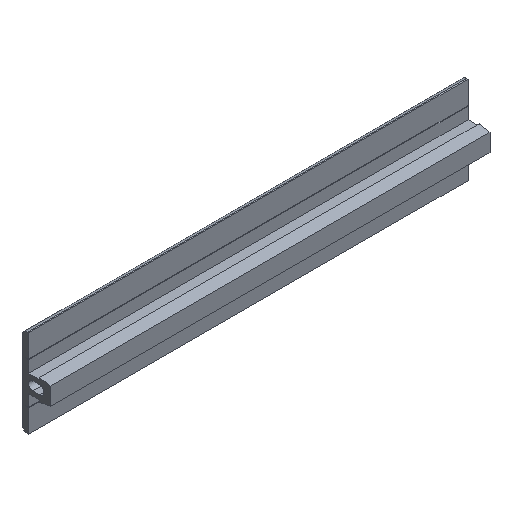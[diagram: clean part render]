
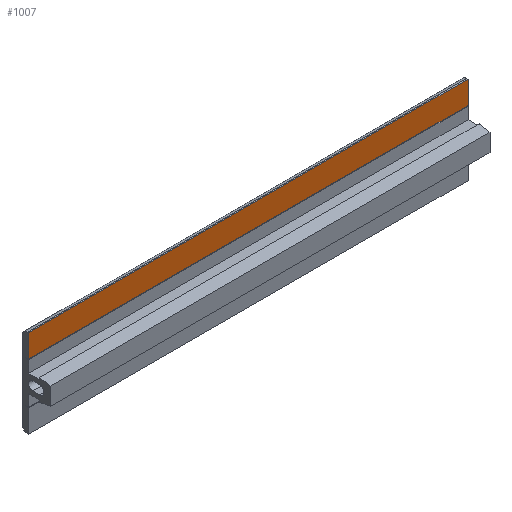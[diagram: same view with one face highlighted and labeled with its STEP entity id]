
A CAD part, isometric view. The second image highlights one B-rep face of the part: STEP entity #1007.
In plain terms, the highlighted planar face has unit normal (0, -1, 0).
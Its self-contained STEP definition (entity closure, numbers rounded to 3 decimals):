
#7 = LINE ( 'NONE', #410, #593 ) ;
#34 = DIRECTION ( 'NONE',  ( 0., 0., -1. ) ) ;
#47 = DIRECTION ( 'NONE',  ( -1., 0., 0. ) ) ;
#116 = VERTEX_POINT ( 'NONE', #558 ) ;
#181 = ORIENTED_EDGE ( 'NONE', *, *, #1139, .F. ) ;
#236 = EDGE_CURVE ( 'NONE', #668, #1108, #320, .T. ) ;
#271 = VECTOR ( 'NONE', #34, 1000. ) ;
#320 = LINE ( 'NONE', #482, #271 ) ;
#349 = CARTESIAN_POINT ( 'NONE',  ( 200., 3.434, 9.631 ) ) ;
#393 = DIRECTION ( 'NONE',  ( 0., 0., -1. ) ) ;
#410 = CARTESIAN_POINT ( 'NONE',  ( 200., 3.434, 20. ) ) ;
#426 = CARTESIAN_POINT ( 'NONE',  ( 200., 3.434, 20. ) ) ;
#433 = FACE_OUTER_BOUND ( 'NONE', #1149, .T. ) ;
#435 = VERTEX_POINT ( 'NONE', #1058 ) ;
#482 = CARTESIAN_POINT ( 'NONE',  ( 0., 3.434, 20. ) ) ;
#506 = CARTESIAN_POINT ( 'NONE',  ( 0., 3.434, 20. ) ) ;
#546 = CARTESIAN_POINT ( 'NONE',  ( 200., 3.434, 20. ) ) ;
#558 = CARTESIAN_POINT ( 'NONE',  ( 200., 3.434, 20. ) ) ;
#593 = VECTOR ( 'NONE', #393, 1000. ) ;
#642 = EDGE_CURVE ( 'NONE', #435, #1108, #828, .T. ) ;
#668 = VERTEX_POINT ( 'NONE', #506 ) ;
#675 = ORIENTED_EDGE ( 'NONE', *, *, #739, .T. ) ;
#703 = DIRECTION ( 'NONE',  ( -1., 0., 0. ) ) ;
#734 = DIRECTION ( 'NONE',  ( 0., 1., 0. ) ) ;
#739 = EDGE_CURVE ( 'NONE', #116, #668, #1199, .T. ) ;
#774 = ORIENTED_EDGE ( 'NONE', *, *, #642, .F. ) ;
#800 = VECTOR ( 'NONE', #47, 1000. ) ;
#828 = LINE ( 'NONE', #349, #800 ) ;
#934 = PLANE ( 'NONE',  #1233 ) ;
#938 = DIRECTION ( 'NONE',  ( 0., 0., 1. ) ) ;
#1007 = ADVANCED_FACE ( 'NONE', ( #433 ), #934, .F. ) ;
#1058 = CARTESIAN_POINT ( 'NONE',  ( 200., 3.434, 9.631 ) ) ;
#1100 = VECTOR ( 'NONE', #703, 1000. ) ;
#1108 = VERTEX_POINT ( 'NONE', #1163 ) ;
#1139 = EDGE_CURVE ( 'NONE', #116, #435, #7, .T. ) ;
#1149 = EDGE_LOOP ( 'NONE', ( #1245, #774, #181, #675 ) ) ;
#1163 = CARTESIAN_POINT ( 'NONE',  ( 0., 3.434, 9.631 ) ) ;
#1199 = LINE ( 'NONE', #426, #1100 ) ;
#1233 = AXIS2_PLACEMENT_3D ( 'NONE', #546, #734, #938 ) ;
#1245 = ORIENTED_EDGE ( 'NONE', *, *, #236, .T. ) ;
